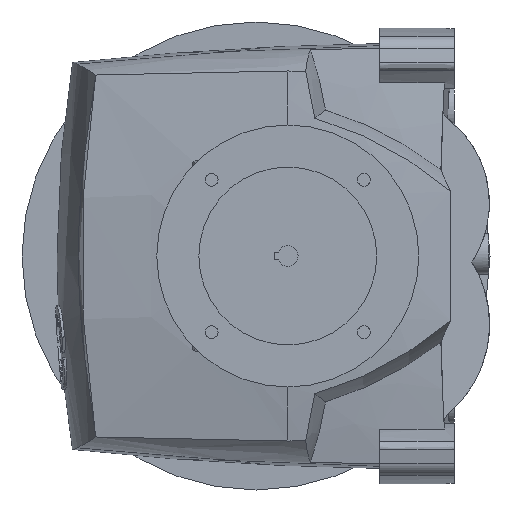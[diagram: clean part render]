
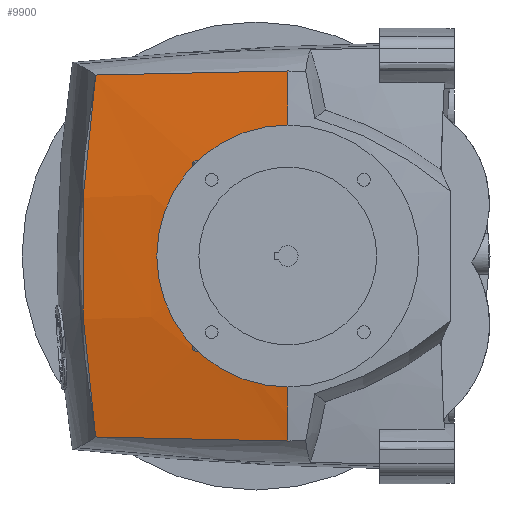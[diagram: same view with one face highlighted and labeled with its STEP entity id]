
A CAD part, left-side view. The second image highlights one B-rep face of the part: STEP entity #9900.
In plain terms, the highlighted free-form (B-spline) face has degree [3, 3] with [4, 4] control points.
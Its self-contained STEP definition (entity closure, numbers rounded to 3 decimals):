
#1568=CARTESIAN_POINT('',(-78.326,215.677,
-96.675));
#1569=CARTESIAN_POINT('',(-79.846,217.513,
-84.291));
#1570=CARTESIAN_POINT('',(-82.319,220.53,
-59.261));
#1571=CARTESIAN_POINT('',(-84.213,223.214,
-20.913));
#1572=CARTESIAN_POINT('',(-84.288,223.332,17.989));
#1573=CARTESIAN_POINT('',(-82.486,220.743,57.273));
#1574=CARTESIAN_POINT('',(-79.939,217.625,83.532));
#1575=CARTESIAN_POINT('',(-78.326,215.677,96.675));
#1638=CARTESIAN_POINT('',(589.642,113.006,
0.));
#1639=DIRECTION('',(0.,1.,0.));
#1640=DIRECTION('',(-0.99,0.,-0.144));
#1641=AXIS2_PLACEMENT_3D('',#1638,#1639,#1640);
#1643=CARTESIAN_POINT('',(-78.326,215.677,
-96.675));
#1644=CARTESIAN_POINT('',(-79.935,204.267,
-97.271));
#1645=CARTESIAN_POINT('',(-83.043,181.448,
-98.215));
#1646=CARTESIAN_POINT('',(-87.373,147.214,
-98.936));
#1647=CARTESIAN_POINT('',(-90.037,124.406,
-98.942));
#1648=CARTESIAN_POINT('',(-91.314,113.006,
-98.834));
#1650=CARTESIAN_POINT('',(-91.314,113.006,98.833));
#1651=CARTESIAN_POINT('',(-90.038,124.406,98.941));
#1652=CARTESIAN_POINT('',(-87.372,147.214,98.937));
#1653=CARTESIAN_POINT('',(-83.043,181.448,98.216));
#1654=CARTESIAN_POINT('',(-79.935,204.267,97.271));
#1655=CARTESIAN_POINT('',(-78.326,215.677,96.675));
#1657=CARTESIAN_POINT('',(589.642,113.006,
0.));
#1658=DIRECTION('',(0.,1.,0.));
#1659=DIRECTION('',(-0.997,0.,0.081));
#1660=AXIS2_PLACEMENT_3D('',#1657,#1658,#1659);
#1674=CARTESIAN_POINT('',(-90.566,163.6,50.6));
#1675=CARTESIAN_POINT('',(-90.926,165.596,42.327));
#1676=CARTESIAN_POINT('',(-91.487,168.604,25.547));
#1677=CARTESIAN_POINT('',(-91.759,170.119,
0.));
#1678=CARTESIAN_POINT('',(-91.486,168.604,
-25.547));
#1679=CARTESIAN_POINT('',(-90.925,165.596,
-42.327));
#1680=CARTESIAN_POINT('',(-90.566,163.6,
-50.6));
#1930=CARTESIAN_POINT('',(-96.183,112.991,55.818));
#1931=CARTESIAN_POINT('',(-95.55,118.676,55.931));
#1932=CARTESIAN_POINT('',(-94.294,130.001,55.688));
#1933=CARTESIAN_POINT('',(-92.413,146.926,53.945));
#1934=CARTESIAN_POINT('',(-91.181,158.075,51.865));
#1935=CARTESIAN_POINT('',(-90.566,163.6,50.6));
#2028=CARTESIAN_POINT('',(-90.566,163.6,
-50.6));
#2029=CARTESIAN_POINT('',(-91.18,158.075,
-51.865));
#2030=CARTESIAN_POINT('',(-92.413,146.925,
-53.945));
#2031=CARTESIAN_POINT('',(-94.293,130.002,
-55.688));
#2032=CARTESIAN_POINT('',(-95.55,118.674,
-55.93));
#2033=CARTESIAN_POINT('',(-96.183,112.995,
-55.818));
#8125=VERTEX_POINT('',#1568);
#8126=VERTEX_POINT('',#1575);
#8330=VERTEX_POINT('',#1930);
#8331=VERTEX_POINT('',#1935);
#8345=VERTEX_POINT('',#2028);
#8346=VERTEX_POINT('',#2033);
#8368=CARTESIAN_POINT('',(-91.315,113.006,98.833));
#8369=VERTEX_POINT('',#8368);
#8370=VERTEX_POINT('',#1648);
#9866=CARTESIAN_POINT('',(-76.188,225.431,101.199));
#9867=CARTESIAN_POINT('',(-81.863,187.324,102.061));
#9868=CARTESIAN_POINT('',(-86.76,149.107,102.806));
#9869=CARTESIAN_POINT('',(-90.875,110.796,103.431));
#9870=CARTESIAN_POINT('',(-86.403,225.431,33.99));
#9871=CARTESIAN_POINT('',(-92.165,187.324,34.28));
#9872=CARTESIAN_POINT('',(-97.137,149.107,34.53));
#9873=CARTESIAN_POINT('',(-101.316,110.796,34.74));
#9874=CARTESIAN_POINT('',(-86.403,225.431,
-33.99));
#9875=CARTESIAN_POINT('',(-92.165,187.324,
-34.28));
#9876=CARTESIAN_POINT('',(-97.137,149.107,
-34.53));
#9877=CARTESIAN_POINT('',(-101.316,110.796,
-34.74));
#9878=CARTESIAN_POINT('',(-76.188,225.431,
-101.198));
#9879=CARTESIAN_POINT('',(-81.863,187.324,
-102.061));
#9880=CARTESIAN_POINT('',(-86.76,149.107,
-102.805));
#9881=CARTESIAN_POINT('',(-90.875,110.796,
-103.431));
#9882=(BOUNDED_SURFACE()B_SPLINE_SURFACE(3,3,((#9866,#9867,#9868,#9869),(#9870,
#9871,#9872,#9873),(#9874,#9875,#9876,#9877),(#9878,#9879,#9880,#9881)),
.UNSPECIFIED.,.F.,.F.,.F.)B_SPLINE_SURFACE_WITH_KNOTS((4,4),(4,4),(0.,1.),(
0.,1.),.UNSPECIFIED.)GEOMETRIC_REPRESENTATION_ITEM()RATIONAL_B_SPLINE_SURFACE(((1.006,1.006,1.006,1.006),(
0.998,0.998,0.998,0.998),(
0.998,0.998,0.998,0.998),(
1.006,1.006,1.006,1.006)))REPRESENTATION_ITEM('')SURFACE());
#9884=ORIENTED_EDGE('',*,*,#9883,.T.);
#9886=ORIENTED_EDGE('',*,*,#9885,.T.);
#9888=ORIENTED_EDGE('',*,*,#9887,.F.);
#9890=ORIENTED_EDGE('',*,*,#9889,.F.);
#9891=ORIENTED_EDGE('',*,*,#9852,.T.);
#9893=ORIENTED_EDGE('',*,*,#9892,.F.);
#9895=ORIENTED_EDGE('',*,*,#9894,.F.);
#9897=ORIENTED_EDGE('',*,*,#9896,.T.);
#9898=EDGE_LOOP('',(#9884,#9886,#9888,#9890,#9891,#9893,#9895,#9897));
#9899=FACE_OUTER_BOUND('',#9898,.F.);
#9900=ADVANCED_FACE('',(#9899),#9882,.T.);
#1576=B_SPLINE_CURVE_WITH_KNOTS('',3,(#1568,#1569,#1570,#1571,#1572,#1573,#1574,
#1575),.UNSPECIFIED.,.F.,.F.,(4,1,1,1,1,4),(0.,0.2,0.4,0.6,0.8,1.),
.UNSPECIFIED.);
#1642=CIRCLE('',#1641,688.091);
#1649=B_SPLINE_CURVE_WITH_KNOTS('',3,(#1643,#1644,#1645,#1646,#1647,#1648),
.UNSPECIFIED.,.F.,.F.,(4,1,1,4),(0.,0.333,0.667,1.),
.UNSPECIFIED.);
#1656=B_SPLINE_CURVE_WITH_KNOTS('',3,(#1650,#1651,#1652,#1653,#1654,#1655),
.UNSPECIFIED.,.F.,.F.,(4,1,1,4),(0.,0.333,0.667,1.),
.UNSPECIFIED.);
#1661=CIRCLE('',#1660,688.091);
#1681=B_SPLINE_CURVE_WITH_KNOTS('',3,(#1674,#1675,#1676,#1677,#1678,#1679,
#1680),.UNSPECIFIED.,.F.,.F.,(4,1,1,1,4),(0.,0.25,0.5,0.75,1.),
.UNSPECIFIED.);
#1936=B_SPLINE_CURVE_WITH_KNOTS('',3,(#1930,#1931,#1932,#1933,#1934,#1935),
.UNSPECIFIED.,.F.,.F.,(4,1,1,4),(0.,0.333,0.667,1.),
.UNSPECIFIED.);
#2034=B_SPLINE_CURVE_WITH_KNOTS('',3,(#2028,#2029,#2030,#2031,#2032,#2033),
.UNSPECIFIED.,.F.,.F.,(4,1,1,4),(0.,0.333,0.667,1.),
.UNSPECIFIED.);
#9852=EDGE_CURVE('',#8125,#8126,#1576,.T.);
#9883=EDGE_CURVE('',#8331,#8345,#1681,.T.);
#9885=EDGE_CURVE('',#8345,#8346,#2034,.T.);
#9887=EDGE_CURVE('',#8370,#8346,#1642,.T.);
#9889=EDGE_CURVE('',#8125,#8370,#1649,.T.);
#9892=EDGE_CURVE('',#8369,#8126,#1656,.T.);
#9894=EDGE_CURVE('',#8330,#8369,#1661,.T.);
#9896=EDGE_CURVE('',#8330,#8331,#1936,.T.);
